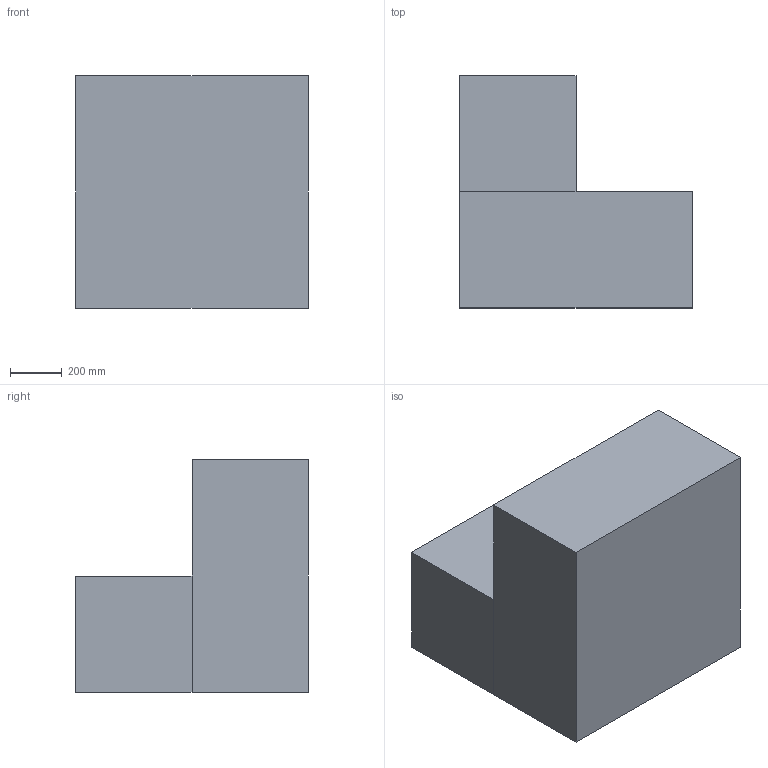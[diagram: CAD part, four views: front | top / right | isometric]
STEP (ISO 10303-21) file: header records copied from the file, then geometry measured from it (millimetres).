
FILE_DESCRIPTION (( 'STEP AP203' ), '1' );
FILE_NAME ('Type C.STEP', '2019-01-15T13:56:25', ( '' ), ( '' ), 'SwSTEP 2.0', 'SolidWorks 2019', '' );
FILE_SCHEMA (( 'CONFIG_CONTROL_DESIGN' ));
Length unit declared in the file: millimetre
Products named in the file (3): Extrabox Type D_Domy˜lna; Extrabox Type A_Domy˜lna; Type C
Assembly tree (2 placements, depth 2):
  Type C
    Extrabox Type D_Domy˜lna
    Extrabox Type A_Domy˜lna
Bounding box: 900 x 900 x 900 mm (x, y, z)
Volume: 455625000 mm3; surface area: 4455000 mm2
Topology: 2 solids, 2 shells, 12 faces, 24 edges, 16 vertices
Faces by surface type: plane 12
Entity records: 613 total; most frequent: DIRECTION 58, CARTESIAN_POINT 57, ORIENTED_EDGE 48, PERSON_AND_ORGANIZATION 26, LINE 24, VECTOR 24, EDGE_CURVE 24, DATE_AND_TIME 19
